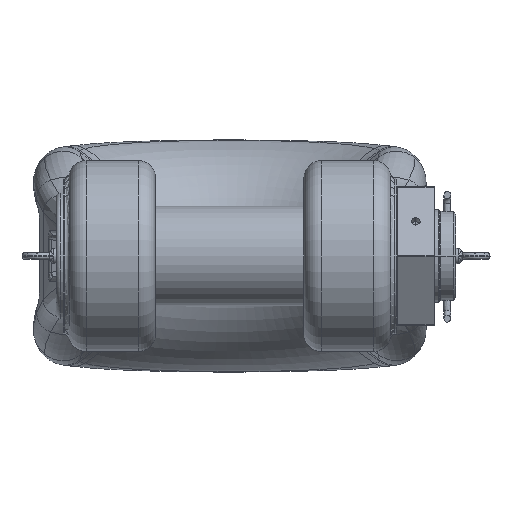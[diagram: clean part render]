
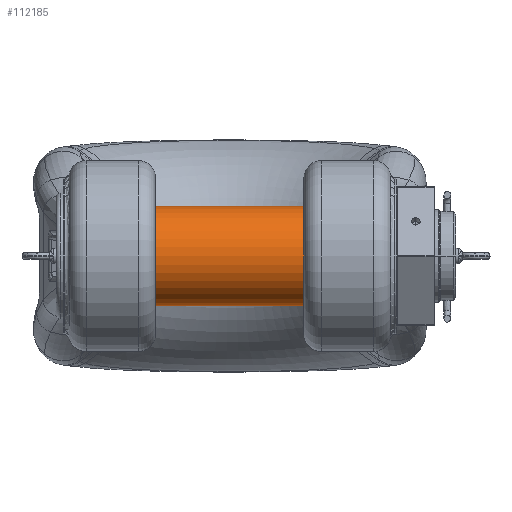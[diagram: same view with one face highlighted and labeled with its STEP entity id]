
A CAD part, front view. The second image highlights one B-rep face of the part: STEP entity #112185.
In plain terms, the highlighted cylindrical face has radius 115 mm (diameter 230 mm), a partial arc.
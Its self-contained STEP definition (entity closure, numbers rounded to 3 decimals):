
#104228=CARTESIAN_POINT('',(6.,0.,0.));
#104229=DIRECTION('',(1.,0.,0.));
#104230=DIRECTION('',(0.,0.,1.));
#104231=AXIS2_PLACEMENT_3D('',#104228,#104229,#104230);
#104236=CARTESIAN_POINT('',(742.,0.,0.));
#104237=DIRECTION('',(-1.,0.,0.));
#104238=DIRECTION('',(0.,0.,-1.));
#104239=AXIS2_PLACEMENT_3D('',#104236,#104237,#104238);
#104244=DIRECTION('',(1.,0.,0.));
#104245=VECTOR('',#104244,736.);
#104246=CARTESIAN_POINT('',(6.,0.,-115.));
#104247=LINE('',#104246,#104245);
#104267=DIRECTION('',(1.,0.,0.));
#104268=VECTOR('',#104267,736.);
#104269=CARTESIAN_POINT('',(6.,0.,115.));
#104270=LINE('',#104269,#104268);
#104786=CARTESIAN_POINT('',(742.,0.,-115.));
#104787=CARTESIAN_POINT('',(742.,0.,115.));
#104788=VERTEX_POINT('',#104786);
#104789=VERTEX_POINT('',#104787);
#104824=CARTESIAN_POINT('',(6.,0.,115.));
#104825=CARTESIAN_POINT('',(6.,0.,-115.));
#104826=VERTEX_POINT('',#104824);
#104827=VERTEX_POINT('',#104825);
#112171=CARTESIAN_POINT('',(-39.,0.,0.));
#112172=DIRECTION('',(-1.,0.,0.));
#112173=DIRECTION('',(0.,0.,1.));
#112174=AXIS2_PLACEMENT_3D('',#112171,#112172,#112173);
#112175=CYLINDRICAL_SURFACE('',#112174,115.);
#112176=ORIENTED_EDGE('',*,*,#112158,.F.);
#112178=ORIENTED_EDGE('',*,*,#112177,.T.);
#112180=ORIENTED_EDGE('',*,*,#112179,.F.);
#112182=ORIENTED_EDGE('',*,*,#112181,.F.);
#112183=EDGE_LOOP('',(#112176,#112178,#112180,#112182));
#112184=FACE_OUTER_BOUND('',#112183,.F.);
#112185=ADVANCED_FACE('',(#112184),#112175,.T.);
#104232=CIRCLE('',#104231,115.);
#104240=CIRCLE('',#104239,115.);
#112158=EDGE_CURVE('',#104826,#104827,#104232,.T.);
#112177=EDGE_CURVE('',#104826,#104789,#104270,.T.);
#112179=EDGE_CURVE('',#104788,#104789,#104240,.T.);
#112181=EDGE_CURVE('',#104827,#104788,#104247,.T.);
